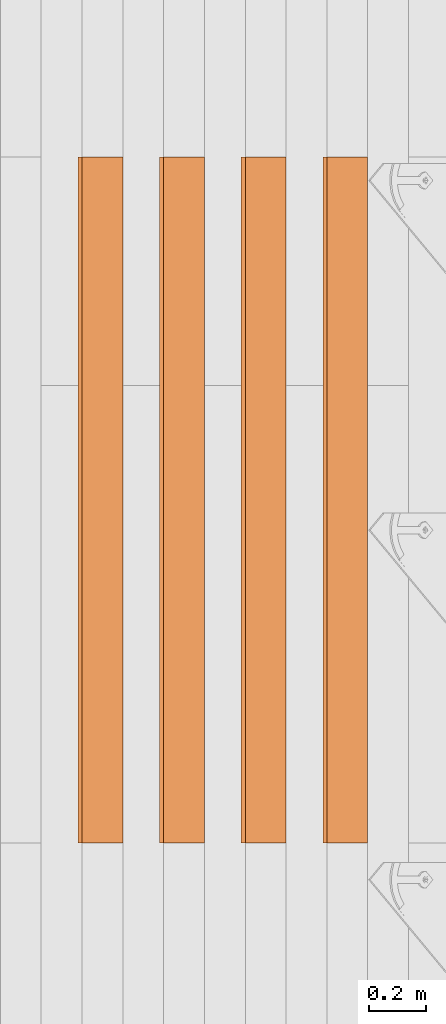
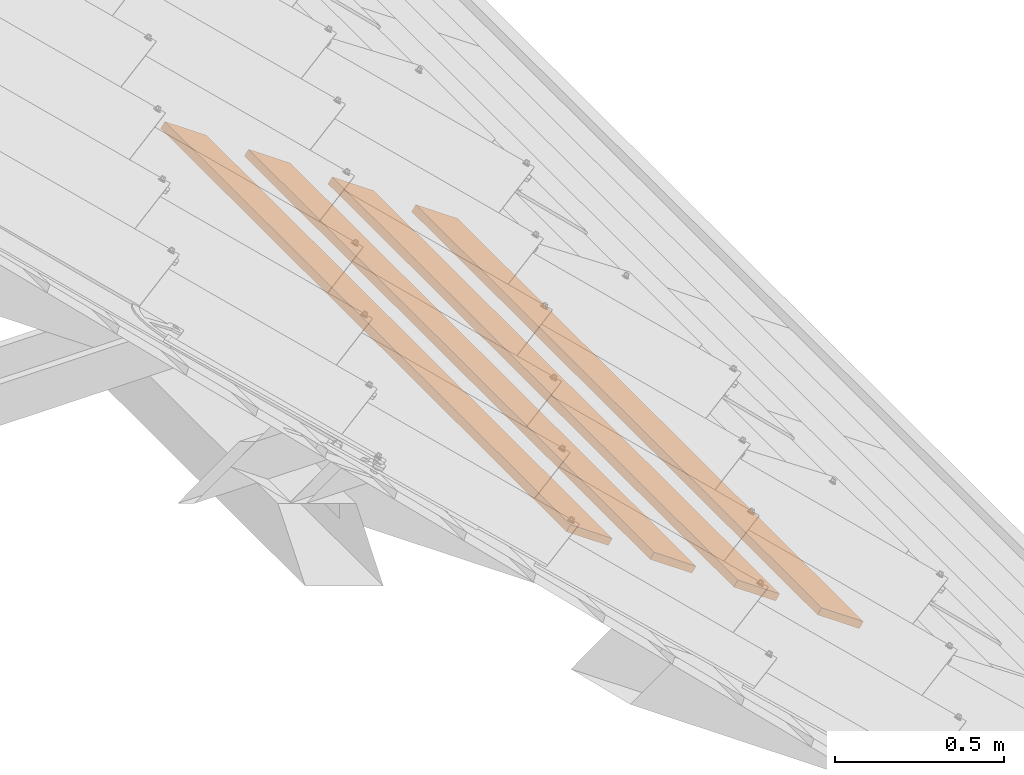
# One storey, part 45 of 151: 4 proxies, 1 element without a shape of its own.
"""IFC2X3 building model written with IfcOpenShell, lengths in millimetres."""

from ifc_helpers import new_model, entity, si_unit, converted_unit, derived_unit, direction, frame, frame_2d, origin, place, context, subcontext, project, spatial, rectangle, extrude, source, transform, mapped, material, type_object, type_shapes, element, aggregate, save


model = new_model("IFC2X3")

# Units and contexts
model_context = context("Model", 3, precision=0.01, world=origin(), true_north=direction((6.12303176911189e-17, 1.0)))
body_context = subcontext(model_context, "Body", "Model", "MODEL_VIEW")
ifc_project = project(units=[si_unit("LENGTHUNIT", "METRE", prefix="MILLI"), si_unit("AREAUNIT", "SQUARE_METRE"), si_unit("VOLUMEUNIT", "CUBIC_METRE"), converted_unit("PLANEANGLEUNIT", "DEGREE", entity("IfcRatioMeasure", 0.0174532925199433), si_unit("PLANEANGLEUNIT", "RADIAN"), dimensions=[0, 0, 0, 0, 0, 0, 0]), si_unit("MASSUNIT", "GRAM", prefix="KILO"), derived_unit("MASSDENSITYUNIT", [(si_unit("MASSUNIT", "GRAM", prefix="KILO"), 1), (si_unit("LENGTHUNIT", "METRE"), -3)]), si_unit("TIMEUNIT", "SECOND"), si_unit("FREQUENCYUNIT", "HERTZ"), si_unit("THERMODYNAMICTEMPERATUREUNIT", "DEGREE_CELSIUS"), derived_unit("THERMALTRANSMITTANCEUNIT", [(si_unit("MASSUNIT", "GRAM", prefix="KILO"), 1), (si_unit("THERMODYNAMICTEMPERATUREUNIT", "KELVIN"), -1), (si_unit("TIMEUNIT", "SECOND"), -3)]), derived_unit("VOLUMETRICFLOWRATEUNIT", [(si_unit("LENGTHUNIT", "METRE"), 3), (si_unit("TIMEUNIT", "SECOND"), -1)]), si_unit("ELECTRICCURRENTUNIT", "AMPERE"), si_unit("ELECTRICVOLTAGEUNIT", "VOLT"), si_unit("POWERUNIT", "WATT"), si_unit("FORCEUNIT", "NEWTON", prefix="KILO"), si_unit("ILLUMINANCEUNIT", "LUX"), si_unit("LUMINOUSFLUXUNIT", "LUMEN"), si_unit("LUMINOUSINTENSITYUNIT", "CANDELA"), derived_unit("USERDEFINED", [(si_unit("MASSUNIT", "GRAM", prefix="KILO"), -1), (si_unit("LENGTHUNIT", "METRE"), -2), (si_unit("TIMEUNIT", "SECOND"), 3), (si_unit("LUMINOUSFLUXUNIT", "LUMEN"), 1)]), derived_unit("LINEARVELOCITYUNIT", [(si_unit("LENGTHUNIT", "METRE"), 1), (si_unit("TIMEUNIT", "SECOND"), -1)]), si_unit("PRESSUREUNIT", "PASCAL"), derived_unit("USERDEFINED", [(si_unit("LENGTHUNIT", "METRE"), -2), (si_unit("MASSUNIT", "GRAM", prefix="KILO"), 1), (si_unit("TIMEUNIT", "SECOND"), -2)])], contexts=[model_context])

# Site, building, storey
site_placement = place(None, origin())
site = spatial("IfcSite", under=ifc_project, at=site_placement, Name="Default", CompositionType="ELEMENT")
building_placement = place(site_placement, origin())
building = spatial("IfcBuilding", under=site, at=building_placement, CompositionType="ELEMENT")
storey_placement = place(building_placement, origin())
storey = spatial("IfcBuildingStorey", under=building, at=storey_placement, Name="Level 1", CompositionType="ELEMENT", Elevation=0.0)

# Assembly, proxies
assembly_placement = place(storey_placement, origin())
assembly = element("IfcElementAssembly", 1, at=assembly_placement, inside=storey, Name="Structural Framing Assembly:Roof Construction Assembly", ObjectType="Structural Framing Assembly:Roof Construction Assembly", AssemblyPlace="NOTDEFINED", PredefinedType="USERDEFINED")
ifc_material = material(Name="Wood - Generic - Wood For Showcase")
building_element_proxy_type_1 = type_object("IfcBuildingElementProxyType", Name="Structural Framing 15", PredefinedType="NOTDEFINED", material=ifc_material)
shared_shape_1 = source(origin(), body_context, "Body", "SweptSolid", [
    extrude(rectangle(XDim=24.9999999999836, YDim=174.344679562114, at=frame_2d((2.97539770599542e-13, -4.2632564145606e-14), x_axis=(1.0, 0.0))), frame((1285.35601305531, 1525.55080214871, 2760.23940055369), z_axis=(0.0, 1.0, 0.0), x_axis=(0.573576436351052, 0.0, 0.819152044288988)), (0.0, 0.0, 1.0), 2400.0),
])
type_shapes(building_element_proxy_type_1, [shared_shape_1])
proxy_1_placement = place(assembly_placement, frame((1771.26547920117, -4870.0, -1200.0)))
proxy_1 = element("IfcBuildingElementProxy", 2, at=proxy_1_placement, type_object=building_element_proxy_type_1, material=ifc_material, Name="Structural Framing 217:Structural Framing 15", ObjectType="Structural Framing 217:Structural Framing 15", context=body_context, shape_type="MappedRepresentation", body=[
    mapped(shared_shape_1, transform((0.0, 0.0, 0.0), scale=1.0)),
])
building_element_proxy_type_2 = type_object("IfcBuildingElementProxyType", Name="Structural Framing 15", PredefinedType="NOTDEFINED", material=ifc_material)
shared_shape_2 = source(origin(), body_context, "Body", "SweptSolid", [
    extrude(rectangle(XDim=24.9999999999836, YDim=174.344679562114, at=frame_2d((2.97539770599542e-13, -4.2632564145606e-14), x_axis=(1.0, 0.0))), frame((1285.35601305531, 1525.55080214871, 2760.23940055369), z_axis=(0.0, 1.0, 0.0), x_axis=(0.573576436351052, 0.0, 0.819152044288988)), (0.0, 0.0, 1.0), 2400.0),
])
type_shapes(building_element_proxy_type_2, [shared_shape_2])
proxy_2_placement = place(assembly_placement, frame((2056.89508054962, -4870.0, -1400.0)))
proxy_2 = element("IfcBuildingElementProxy", 3, at=proxy_2_placement, type_object=building_element_proxy_type_2, material=ifc_material, Name="Structural Framing 227:Structural Framing 15", ObjectType="Structural Framing 227:Structural Framing 15", context=body_context, shape_type="MappedRepresentation", body=[
    mapped(shared_shape_2, transform((0.0, 0.0, 0.0), scale=1.0)),
])
building_element_proxy_type_3 = type_object("IfcBuildingElementProxyType", Name="Structural Framing 15", PredefinedType="NOTDEFINED", material=ifc_material)
shared_shape_3 = source(origin(), body_context, "Body", "SweptSolid", [
    extrude(rectangle(XDim=24.9999999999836, YDim=174.344679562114, at=frame_2d((2.97539770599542e-13, -4.2632564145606e-14), x_axis=(1.0, 0.0))), frame((1285.35601305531, 1525.55080214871, 2760.23940055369), z_axis=(0.0, 1.0, 0.0), x_axis=(0.573576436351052, 0.0, 0.819152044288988)), (0.0, 0.0, 1.0), 2400.0),
])
type_shapes(building_element_proxy_type_3, [shared_shape_3])
proxy_3_placement = place(assembly_placement, frame((2342.52468189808, -4870.0, -1600.0)))
proxy_3 = element("IfcBuildingElementProxy", 4, at=proxy_3_placement, type_object=building_element_proxy_type_3, material=ifc_material, Name="Structural Framing 237:Structural Framing 15", ObjectType="Structural Framing 237:Structural Framing 15", context=body_context, shape_type="MappedRepresentation", body=[
    mapped(shared_shape_3, transform((0.0, 0.0, 0.0), scale=1.0)),
])
building_element_proxy_type_4 = type_object("IfcBuildingElementProxyType", Name="Structural Framing 15", PredefinedType="NOTDEFINED", material=ifc_material)
shared_shape_4 = source(origin(), body_context, "Body", "SweptSolid", [
    extrude(rectangle(XDim=24.9999999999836, YDim=174.344679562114, at=frame_2d((2.97539770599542e-13, -4.2632564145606e-14), x_axis=(1.0, 0.0))), frame((1285.35601305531, 1525.55080214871, 2760.23940055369), z_axis=(0.0, 1.0, 0.0), x_axis=(0.573576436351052, 0.0, 0.819152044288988)), (0.0, 0.0, 1.0), 2400.0),
])
type_shapes(building_element_proxy_type_4, [shared_shape_4])
proxy_4_placement = place(assembly_placement, frame((2628.15428324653, -4870.0, -1800.0)))
proxy_4 = element("IfcBuildingElementProxy", 5, at=proxy_4_placement, type_object=building_element_proxy_type_4, material=ifc_material, Name="Structural Framing 247:Structural Framing 15", ObjectType="Structural Framing 247:Structural Framing 15", context=body_context, shape_type="MappedRepresentation", body=[
    mapped(shared_shape_4, transform((0.0, 0.0, 0.0), scale=1.0)),
])
aggregate(assembly, [proxy_1, proxy_2, proxy_3, proxy_4])

save(model, "model.ifc")
